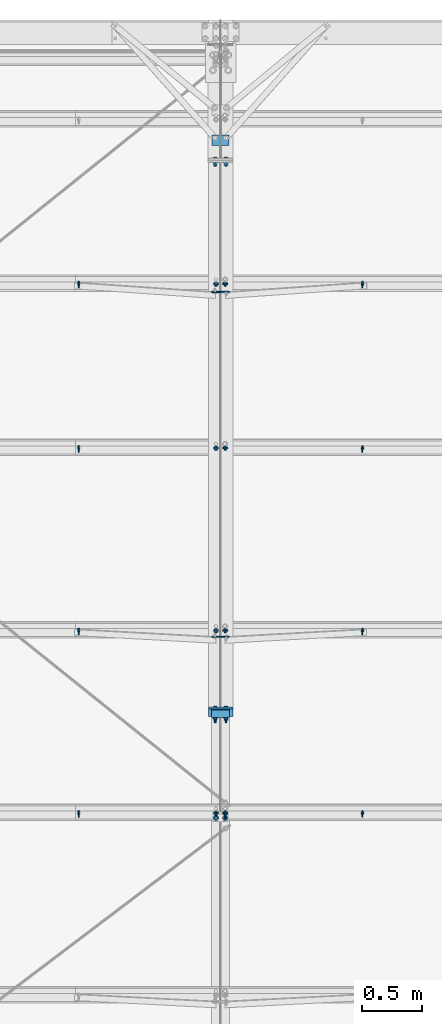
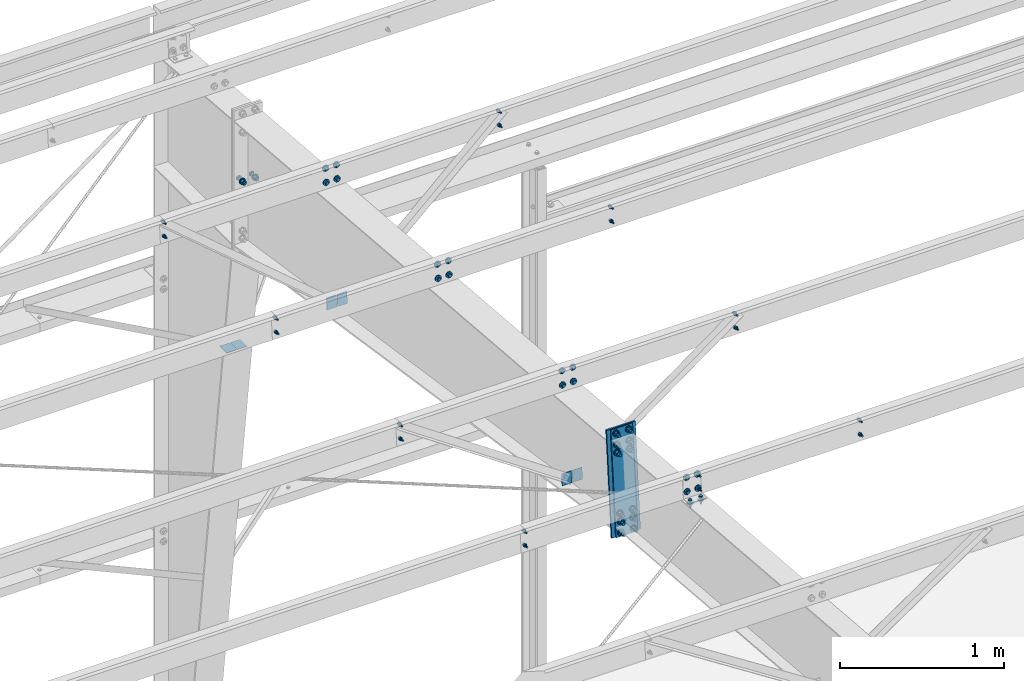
# One storey, part 113 of 185: 22 mechanical fasteners, 8 discrete accessories, 12 elements without a shape of their own.
"""IFC2X3 building model written with IfcOpenShell, lengths in millimetres."""

from ifc_helpers import new_model, si_unit, frame, origin_with_axes, origin_2d_with_axis, place, context, subcontext, project, spatial, polyline, rectangle, circle, outline, extrude, source, transform, mapped, material, type_object, element, aggregate, save


model = new_model("IFC2X3")

# Units and contexts
model_context = context("Model", 3, precision=1e-05, world=origin_with_axes())
body_context = subcontext(model_context, "Body", "Model", "MODEL_VIEW")
ifc_project = project(units=[si_unit("LENGTHUNIT", "METRE", prefix="MILLI"), si_unit("AREAUNIT", "SQUARE_METRE"), si_unit("VOLUMEUNIT", "CUBIC_METRE"), si_unit("MASSUNIT", "GRAM", prefix="KILO"), si_unit("TIMEUNIT", "SECOND"), si_unit("PLANEANGLEUNIT", "RADIAN"), si_unit("SOLIDANGLEUNIT", "STERADIAN"), si_unit("THERMODYNAMICTEMPERATUREUNIT", "DEGREE_CELSIUS"), si_unit("LUMINOUSINTENSITYUNIT", "LUMEN")], contexts=[model_context])

# Site, building, storey
site_placement = place(None, origin_with_axes())
site = spatial("IfcSite", under=ifc_project, at=site_placement, Name="Undefined", CompositionType="ELEMENT")
building_placement = place(site_placement, origin_with_axes())
building = spatial("IfcBuilding", under=site, at=building_placement, Name="Undefined", CompositionType="ELEMENT")
storey_placement = place(building_placement, origin_with_axes())
storey = spatial("IfcBuildingStorey", under=building, at=storey_placement, Name="Undefined", CompositionType="ELEMENT", Elevation=0.0)

# Assembly, mechanical fastener
assembly_1_placement = place(storey_placement, origin_with_axes())
assembly_1 = element("IfcElementAssembly", 1, at=assembly_1_placement, inside=storey, Name="Steel Assembly", AssemblyPlace="NOTDEFINED", PredefinedType="RIGID_FRAME")
ifc_material_1 = material(Name="Undefined")
discrete_accessory_type_1 = type_object("IfcDiscreteAccessoryType", Name="Bolt assembly")
shared_shape_1 = source(origin_with_axes(), body_context, "Body", "SweptSolid", [
    extrude(circle(Radius=7.14374971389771, at=origin_2d_with_axis()), frame((0.0, -1.59000001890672, 0.0), z_axis=(0.0, 1.0, 0.0), x_axis=(1.0, 0.0, 0.0)), (0.0, 0.0, 1.0), 3.3),
    extrude(circle(Radius=13.4937496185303, at=origin_2d_with_axis()), frame((0.0, -5.5587500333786, 0.0), z_axis=(0.0, 1.0, 0.0), x_axis=(1.0, 0.0, 0.0)), (0.0, 0.0, 1.0), 4.0),
    extrude(circle(Radius=22.2250003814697, at=origin_2d_with_axis()), frame((0.0, 1.5900000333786, 0.0), z_axis=(0.0, 1.0, 0.0), x_axis=(1.0, 0.0, 0.0)), (0.0, 0.0, 1.0), 7.9),
    extrude(outline(polyline([(12.8316099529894, 0.0), (6.4158049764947, 11.1125001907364), (-6.4158049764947, 11.1125001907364), (-12.8316099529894, 0.0), (-6.4158049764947, -11.1125001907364), (6.4158049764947, -11.1125001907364), (12.8316099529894, 0.0)])), frame((0.0, 9.5275000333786, 0.0), z_axis=(0.0, 1.0, 0.0), x_axis=(1.0, 0.0, 0.0)), (0.0, 0.0, 1.0), 12.3),
])
mechanical_fastener_1_placement = place(assembly_1_placement, frame((37680.9, 25413.9424255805, 6594.19538193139), z_axis=(-1.0, 0.0, 0.0), x_axis=(0.0, -0.0830454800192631, -0.996545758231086)))
mechanical_fastener_1 = element("IfcMechanicalFastener", 2, at=mechanical_fastener_1_placement, type_object=discrete_accessory_type_1, material=ifc_material_1, Name="Bolt assembly", NominalDiameter=12.6999998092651, NominalLength=38.0999984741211, context=body_context, shape_type="MappedRepresentation", body=[
    mapped(shared_shape_1, transform((0.0, 0.0, 0.0))),
    mapped(shared_shape_1, transform((101.599998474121, 0.0, 0.0))),
])
aggregate(assembly_1, [mechanical_fastener_1])

assembly_2_placement = place(storey_placement, origin_with_axes())
assembly_2 = element("IfcElementAssembly", 3, at=assembly_2_placement, inside=storey, Name="Steel Assembly", AssemblyPlace="NOTDEFINED", PredefinedType="RIGID_FRAME")
mechanical_fastener_2_placement = place(assembly_2_placement, frame((37757.1, 25413.9424256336, 6594.19538269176), z_axis=(-1.0, 0.0, 0.0), x_axis=(0.0, -0.0830454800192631, -0.996545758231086)))
mechanical_fastener_2 = element("IfcMechanicalFastener", 4, at=mechanical_fastener_2_placement, type_object=discrete_accessory_type_1, material=ifc_material_1, Name="Bolt assembly", NominalDiameter=12.6999998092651, NominalLength=38.0999984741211, context=body_context, shape_type="MappedRepresentation", body=[
    mapped(shared_shape_1, transform((0.0, 0.0, 0.0))),
    mapped(shared_shape_1, transform((101.599998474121, 0.0, 0.0))),
])

assembly_3_placement = place(storey_placement, origin_with_axes())
assembly_3 = element("IfcElementAssembly", 5, at=assembly_3_placement, inside=storey, Name="Steel Assembly", AssemblyPlace="NOTDEFINED", PredefinedType="RIGID_FRAME")
mechanical_fastener_3_placement = place(assembly_3_placement, frame((37680.9, 26932.6781611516, 6467.63407038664), z_axis=(-1.0, 0.0, 0.0), x_axis=(0.0, -0.0830454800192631, -0.996545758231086)))
mechanical_fastener_3 = element("IfcMechanicalFastener", 6, at=mechanical_fastener_3_placement, type_object=discrete_accessory_type_1, material=ifc_material_1, Name="Bolt assembly", NominalDiameter=12.6999998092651, NominalLength=38.0999984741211, context=body_context, shape_type="MappedRepresentation", body=[
    mapped(shared_shape_1, transform((0.0, 0.0, 0.0))),
    mapped(shared_shape_1, transform((101.599998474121, 0.0, 0.0))),
])
aggregate(assembly_3, [mechanical_fastener_3])

assembly_4_placement = place(storey_placement, origin_with_axes())
assembly_4 = element("IfcElementAssembly", 7, at=assembly_4_placement, inside=storey, Name="Steel Assembly", AssemblyPlace="NOTDEFINED", PredefinedType="RIGID_FRAME")
mechanical_fastener_4_placement = place(assembly_4_placement, frame((37757.1, 26932.6781611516, 6467.63407038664), z_axis=(-1.0, 0.0, 0.0), x_axis=(0.0, -0.0830454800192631, -0.996545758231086)))
mechanical_fastener_4 = element("IfcMechanicalFastener", 8, at=mechanical_fastener_4_placement, type_object=discrete_accessory_type_1, material=ifc_material_1, Name="Bolt assembly", NominalDiameter=12.6999998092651, NominalLength=38.0999984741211, context=body_context, shape_type="MappedRepresentation", body=[
    mapped(shared_shape_1, transform((0.0, 0.0, 0.0))),
    mapped(shared_shape_1, transform((101.599998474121, 0.0, 0.0))),
])

assembly_5_placement = place(storey_placement, origin_with_axes())
assembly_5 = element("IfcElementAssembly", 9, at=assembly_5_placement, inside=storey, Name="Steel Assembly", AssemblyPlace="NOTDEFINED", PredefinedType="RIGID_FRAME")
mechanical_fastener_5_placement = place(assembly_5_placement, frame((37680.9, 28451.4138966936, 6341.07275883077), z_axis=(-1.0, 0.0, 0.0), x_axis=(0.0, -0.0830454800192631, -0.996545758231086)))
mechanical_fastener_5 = element("IfcMechanicalFastener", 10, at=mechanical_fastener_5_placement, type_object=discrete_accessory_type_1, material=ifc_material_1, Name="Bolt assembly", NominalDiameter=12.6999998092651, NominalLength=38.0999984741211, context=body_context, shape_type="MappedRepresentation", body=[
    mapped(shared_shape_1, transform((0.0, 0.0, 0.0))),
    mapped(shared_shape_1, transform((101.599998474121, 0.0, 0.0))),
])
aggregate(assembly_5, [mechanical_fastener_5])

assembly_6_placement = place(storey_placement, origin_with_axes())
assembly_6 = element("IfcElementAssembly", 11, at=assembly_6_placement, inside=storey, Name="Steel Assembly", AssemblyPlace="NOTDEFINED", PredefinedType="RIGID_FRAME")
mechanical_fastener_6_placement = place(assembly_6_placement, frame((37757.1, 28451.4138966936, 6341.07275883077), z_axis=(-1.0, 0.0, 0.0), x_axis=(0.0, -0.0830454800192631, -0.996545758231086)))
mechanical_fastener_6 = element("IfcMechanicalFastener", 12, at=mechanical_fastener_6_placement, type_object=discrete_accessory_type_1, material=ifc_material_1, Name="Bolt assembly", NominalDiameter=12.6999998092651, NominalLength=38.0999984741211, context=body_context, shape_type="MappedRepresentation", body=[
    mapped(shared_shape_1, transform((0.0, 0.0, 0.0))),
    mapped(shared_shape_1, transform((101.599998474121, 0.0, 0.0))),
])

assembly_7_placement = place(storey_placement, origin_with_axes())
assembly_7 = element("IfcElementAssembly", 13, at=assembly_7_placement, inside=storey, Name="Steel Assembly", AssemblyPlace="NOTDEFINED", PredefinedType="RIGID_FRAME")
mechanical_fastener_7_placement = place(assembly_7_placement, frame((37680.9, 29818.2760586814, 6227.1675784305), z_axis=(-1.0, 0.0, 0.0), x_axis=(0.0, -0.0830454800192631, -0.996545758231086)))
mechanical_fastener_7 = element("IfcMechanicalFastener", 14, at=mechanical_fastener_7_placement, type_object=discrete_accessory_type_1, material=ifc_material_1, Name="Bolt assembly", NominalDiameter=12.6999998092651, NominalLength=38.0999984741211, context=body_context, shape_type="MappedRepresentation", body=[
    mapped(shared_shape_1, transform((0.0, 0.0, 0.0))),
    mapped(shared_shape_1, transform((101.599998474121, 0.0, 0.0))),
])
aggregate(assembly_7, [mechanical_fastener_7])

assembly_8_placement = place(storey_placement, origin_with_axes())
assembly_8 = element("IfcElementAssembly", 15, at=assembly_8_placement, inside=storey, Name="Steel Assembly", AssemblyPlace="NOTDEFINED", PredefinedType="RIGID_FRAME")
mechanical_fastener_8_placement = place(assembly_8_placement, frame((37757.1, 29818.2760586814, 6227.1675784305), z_axis=(-1.0, 0.0, 0.0), x_axis=(0.0, -0.0830454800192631, -0.996545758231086)))
mechanical_fastener_8 = element("IfcMechanicalFastener", 16, at=mechanical_fastener_8_placement, type_object=discrete_accessory_type_1, material=ifc_material_1, Name="Bolt assembly", NominalDiameter=12.6999998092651, NominalLength=38.0999984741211, context=body_context, shape_type="MappedRepresentation", body=[
    mapped(shared_shape_1, transform((0.0, 0.0, 0.0))),
    mapped(shared_shape_1, transform((101.599998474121, 0.0, 0.0))),
])

# Assembly, discrete accessories
assembly_9_placement = place(storey_placement, origin_with_axes())
assembly_9 = element("IfcElementAssembly", 17, at=assembly_9_placement, inside=storey, Name="Steel Assembly", AssemblyPlace="NOTDEFINED", PredefinedType="RIGID_FRAME")
ifc_material_2 = material(Name="STEEL/55")
discrete_accessory_type_2 = type_object("IfcDiscreteAccessoryType", Name="FLANGE BRACE FLIP")
discrete_accessory_1_placement = place(assembly_9_placement, frame((37721.38125, 31003.9296133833, 4163.892), z_axis=(0.0, 1.0, 0.0), x_axis=(1.0, 0.0, 0.0)))
discrete_accessory_1 = element("IfcDiscreteAccessory", 18, at=discrete_accessory_1_placement, type_object=discrete_accessory_type_2, material=ifc_material_2, Name="FLANGE BRACE FLIP", ObjectType="PL1/8\"X2 3/4\"", context=body_context, shape_type="SweptSolid", body=[
    extrude(rectangle(XDim=3.416, YDim=85.725, at=origin_2d_with_axis()), frame((69.8499999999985, 0.0, 0.0), z_axis=(-1.0, 0.0, 0.0), x_axis=(0.0, -1.0, 0.0)), (0.0, 0.0, 1.0), 69.8),
])
discrete_accessory_2_placement = place(assembly_9_placement, frame((37716.61875, 31003.9296133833, 4163.892), z_axis=(0.0, 1.0, 0.0), x_axis=(-1.0, 0.0, 0.0)))
discrete_accessory_2 = element("IfcDiscreteAccessory", 19, at=discrete_accessory_2_placement, type_object=discrete_accessory_type_2, material=ifc_material_2, Name="FLANGE BRACE FLIP", ObjectType="PL1/8\"X2 3/4\"", context=body_context, shape_type="SweptSolid", body=[
    extrude(rectangle(XDim=3.416, YDim=85.725, at=origin_2d_with_axis()), frame((69.8499999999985, 0.0, 0.0), z_axis=(-1.0, 0.0, 0.0), x_axis=(0.0, -1.0, 0.0)), (0.0, 0.0, 1.0), 69.8),
])

assembly_10_placement = place(storey_placement, origin_with_axes())
assembly_10 = element("IfcElementAssembly", 20, at=assembly_10_placement, inside=storey, Name="Steel Assembly", AssemblyPlace="NOTDEFINED", PredefinedType="RIGID_FRAME")
discrete_accessory_3_placement = place(assembly_10_placement, frame((37716.619, 26870.4225230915, 5699.99936980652), z_axis=(0.0, 0.0830454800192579, 0.996545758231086), x_axis=(-1.0, 0.0, 0.0)))
discrete_accessory_3 = element("IfcDiscreteAccessory", 21, at=discrete_accessory_3_placement, type_object=discrete_accessory_type_2, material=ifc_material_2, Name="FLANGE BRACE FLIP", ObjectType="PL1/8\"X2 3/4\"", context=body_context, shape_type="SweptSolid", body=[
    extrude(rectangle(XDim=3.416, YDim=85.725, at=origin_2d_with_axis()), frame((69.8499999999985, 0.0, 0.0), z_axis=(-1.0, 0.0, 0.0), x_axis=(0.0, -1.0, 0.0)), (0.0, 0.0, 1.0), 69.8),
])
discrete_accessory_4_placement = place(assembly_10_placement, frame((37721.381, 26870.4225230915, 5699.99936980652), z_axis=(0.0, 0.0830454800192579, 0.996545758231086), x_axis=(1.0, 0.0, 0.0)))
discrete_accessory_4 = element("IfcDiscreteAccessory", 22, at=discrete_accessory_4_placement, type_object=discrete_accessory_type_2, material=ifc_material_2, Name="FLANGE BRACE FLIP", ObjectType="PL1/8\"X2 3/4\"", context=body_context, shape_type="SweptSolid", body=[
    extrude(rectangle(XDim=3.416, YDim=85.725, at=origin_2d_with_axis()), frame((69.8499999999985, 0.0, 0.0), z_axis=(-1.0, 0.0, 0.0), x_axis=(0.0, -1.0, 0.0)), (0.0, 0.0, 1.0), 69.8),
])
discrete_accessory_5_placement = place(assembly_10_placement, frame((37716.619, 29740.2521226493, 5270.31330232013), z_axis=(0.0, 0.0830454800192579, 0.996545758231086), x_axis=(-1.0, 0.0, 0.0)))
discrete_accessory_5 = element("IfcDiscreteAccessory", 23, at=discrete_accessory_5_placement, type_object=discrete_accessory_type_2, material=ifc_material_2, Name="FLANGE BRACE FLIP", ObjectType="PL1/8\"X2 3/4\"", context=body_context, shape_type="SweptSolid", body=[
    extrude(rectangle(XDim=3.416, YDim=85.725, at=origin_2d_with_axis()), frame((69.8499999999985, 0.0, 0.0), z_axis=(-1.0, 0.0, 0.0), x_axis=(0.0, -1.0, 0.0)), (0.0, 0.0, 1.0), 69.9),
])
discrete_accessory_6_placement = place(assembly_10_placement, frame((37721.381, 29740.2521226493, 5270.31330232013), z_axis=(0.0, 0.0830454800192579, 0.996545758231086), x_axis=(1.0, 0.0, 0.0)))
discrete_accessory_6 = element("IfcDiscreteAccessory", 24, at=discrete_accessory_6_placement, type_object=discrete_accessory_type_2, material=ifc_material_2, Name="FLANGE BRACE FLIP", ObjectType="PL1/8\"X2 3/4\"", context=body_context, shape_type="SweptSolid", body=[
    extrude(rectangle(XDim=3.416, YDim=85.725, at=origin_2d_with_axis()), frame((69.8499999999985, 0.0, 0.0), z_axis=(-1.0, 0.0, 0.0), x_axis=(0.0, -1.0, 0.0)), (0.0, 0.0, 1.0), 69.8),
])

# Mechanical fastener
shared_shape_2 = source(origin_with_axes(), body_context, "Body", "SweptSolid", [
    extrude(circle(Radius=7.14374971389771, at=origin_2d_with_axis()), frame((0.0, -1.69000003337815, 0.0), z_axis=(0.0, 1.0, 0.0), x_axis=(1.0, 0.0, 0.0)), (0.0, 0.0, 1.0), 3.3),
    extrude(circle(Radius=7.14374971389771, at=origin_2d_with_axis()), frame((0.0, -1.4900000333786, 0.0), z_axis=(0.0, 1.0, 0.0), x_axis=(1.0, 0.0, 0.0)), (0.0, 0.0, 1.0), 3.2),
    extrude(outline(polyline([(10.9985221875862, 0.0), (5.4992610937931, 9.52499961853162), (-5.4992610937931, 9.52499961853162), (-10.9985221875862, 0.0), (-5.4992610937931, -9.52499961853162), (5.4992610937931, -9.52499961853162), (10.9985221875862, 0.0)])), frame((0.0, -11.1149996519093, 0.0), z_axis=(0.0, 1.0, 0.0), x_axis=(1.0, 0.0, 0.0)), (0.0, 0.0, 1.0), 9.5),
    extrude(circle(Radius=6.34999990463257, at=origin_2d_with_axis()), frame((0.0, -1.59000001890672, 0.0), z_axis=(0.0, 1.0, 0.0), x_axis=(1.0, 0.0, 0.0)), (0.0, 0.0, 1.0), 38.1),
    extrude(outline(polyline([(12.8316099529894, 0.0), (6.4158049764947, 11.1125001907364), (-6.4158049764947, 11.1125001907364), (-12.8316099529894, 0.0), (-6.4158049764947, -11.1125001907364), (6.4158049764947, -11.1125001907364), (12.8316099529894, 0.0)])), frame((0.0, 1.5900000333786, 0.0), z_axis=(0.0, 1.0, 0.0), x_axis=(1.0, 0.0, 0.0)), (0.0, 0.0, 1.0), 12.3),
])
mechanical_fastener_9_placement = place(assembly_2_placement, frame((36537.9, 25413.9424255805, 6594.19538193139), z_axis=(-1.0, 0.0, 0.0), x_axis=(0.0, -0.0830454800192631, -0.996545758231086)))
mechanical_fastener_9 = element("IfcMechanicalFastener", 25, at=mechanical_fastener_9_placement, type_object=discrete_accessory_type_1, material=ifc_material_1, Name="Bolt assembly", NominalDiameter=12.6999998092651, NominalLength=38.0999984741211, context=body_context, shape_type="MappedRepresentation", body=[
    mapped(shared_shape_2, transform((0.0, 0.0, 0.0))),
    mapped(shared_shape_2, transform((101.599998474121, 0.0, 0.0))),
])

mechanical_fastener_10_placement = place(assembly_2_placement, frame((38900.1, 25413.9424255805, 6594.19538193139), z_axis=(-1.0, 0.0, 0.0), x_axis=(0.0, -0.0830454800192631, -0.996545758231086)))
mechanical_fastener_10 = element("IfcMechanicalFastener", 26, at=mechanical_fastener_10_placement, type_object=discrete_accessory_type_1, material=ifc_material_1, Name="Bolt assembly", NominalDiameter=12.6999998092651, NominalLength=38.0999984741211, context=body_context, shape_type="MappedRepresentation", body=[
    mapped(shared_shape_2, transform((0.0, 0.0, 0.0))),
    mapped(shared_shape_2, transform((101.599998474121, 0.0, 0.0))),
])

aggregate(assembly_2, [mechanical_fastener_2, mechanical_fastener_9, mechanical_fastener_10])

# Assembly, mechanical fastener
assembly_11_placement = place(storey_placement, origin_with_axes())
assembly_11 = element("IfcElementAssembly", 27, at=assembly_11_placement, inside=storey, Name="Steel Assembly", AssemblyPlace="NOTDEFINED", PredefinedType="RIGID_FRAME")
shared_shape_3 = source(origin_with_axes(), body_context, "Body", "SweptSolid", [
    extrude(circle(Radius=7.14374971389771, at=origin_2d_with_axis()), frame((0.0, -4.65999985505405, 0.0), z_axis=(0.0, 1.0, 0.0), x_axis=(1.0, 0.0, 0.0)), (0.0, 0.0, 1.0), 4.8),
    extrude(circle(Radius=7.14374971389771, at=origin_2d_with_axis()), frame((0.0, -0.0238014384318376, 0.0), z_axis=(0.0, 1.0, 0.0), x_axis=(1.0, 0.0, 0.0)), (0.0, 0.0, 1.0), 8.0),
    extrude(outline(polyline([(12.8316099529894, 0.0), (6.4158049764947, 11.1125001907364), (-6.4158049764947, 11.1125001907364), (-12.8316099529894, 0.0), (-6.4158049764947, -11.1125001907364), (6.4158049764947, -11.1125001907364), (12.8316099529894, 0.0)])), frame((0.0, -12.697499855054, 0.0), z_axis=(0.0, 1.0, 0.0), x_axis=(1.0, 0.0, 0.0)), (0.0, 0.0, 1.0), 7.9),
    extrude(circle(Radius=6.34999990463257, at=origin_2d_with_axis()), frame((0.0, -4.75999985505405, 0.0), z_axis=(0.0, 1.0, 0.0), x_axis=(1.0, 0.0, 0.0)), (0.0, 0.0, 1.0), 50.8),
    extrude(circle(Radius=22.2250003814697, at=origin_2d_with_axis()), frame((0.0, 7.95019856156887, 0.0), z_axis=(0.0, 1.0, 0.0), x_axis=(1.0, 0.0, 0.0)), (0.0, 0.0, 1.0), 7.9),
    extrude(outline(polyline([(12.8316099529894, 0.0), (6.4158049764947, 11.1125001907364), (-6.4158049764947, 11.1125001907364), (-12.8316099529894, 0.0), (-6.4158049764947, -11.1125001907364), (6.4158049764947, -11.1125001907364), (12.8316099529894, 0.0)])), frame((0.0, 15.8876985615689, 0.0), z_axis=(0.0, 1.0, 0.0), x_axis=(1.0, 0.0, 0.0)), (0.0, 0.0, 1.0), 12.3),
])
mechanical_fastener_11_placement = place(assembly_11_placement, frame((37719.0, 25363.317901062, 6445.48584115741), z_axis=(1.0, 0.0, 0.0), x_axis=(0.0, -0.996545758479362, 0.0830454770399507)))
mechanical_fastener_11 = element("IfcMechanicalFastener", 28, at=mechanical_fastener_11_placement, type_object=discrete_accessory_type_1, material=ifc_material_1, Name="Bolt assembly", NominalDiameter=12.6999998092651, NominalLength=50.7999992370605, context=body_context, shape_type="MappedRepresentation", body=[
    mapped(shared_shape_3, transform((0.0, 0.0, -38.0999984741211))),
    mapped(shared_shape_3, transform((0.0, 0.0, 38.0999984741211))),
])

# Assembly, mechanical fasteners
assembly_12_placement = place(storey_placement, origin_with_axes())
assembly_12 = element("IfcElementAssembly", 29, at=assembly_12_placement, inside=storey, Name="Steel Assembly", AssemblyPlace="NOTDEFINED", PredefinedType="RIGID_FRAME")
shared_shape_4 = source(origin_with_axes(), body_context, "Body", "SweptSolid", [
    extrude(circle(Radius=7.14374971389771, at=origin_2d_with_axis()), frame((0.0, 0.0, 0.0), z_axis=(0.0, 1.0, 0.0), x_axis=(1.0, 0.0, 0.0)), (0.0, 0.0, 1.0), 4.9),
    extrude(outline(polyline([(12.8316099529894, 0.0), (6.4158049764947, 11.1125001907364), (-6.4158049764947, 11.1125001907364), (-12.8316099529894, 0.0), (-6.4158049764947, -11.1125001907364), (6.4158049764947, -11.1125001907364), (12.8316099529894, 0.0)])), frame((0.0, 4.76000382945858, 0.0), z_axis=(0.0, 1.0, 0.0), x_axis=(1.0, 0.0, 0.0)), (0.0, 0.0, 1.0), 12.3),
])
mechanical_fastener_12_placement = place(assembly_12_placement, frame((37680.9, 25413.9424255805, 6594.19538193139), z_axis=(-1.0, 0.0, 0.0), x_axis=(0.0, -0.0830454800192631, -0.996545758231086)))
mechanical_fastener_12 = element("IfcMechanicalFastener", 30, at=mechanical_fastener_12_placement, type_object=discrete_accessory_type_1, material=ifc_material_1, Name="Bolt assembly", NominalDiameter=12.6999998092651, NominalLength=50.7999992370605, context=body_context, shape_type="MappedRepresentation", body=[
    mapped(shared_shape_4, transform((0.0, 0.0, 0.0))),
    mapped(shared_shape_4, transform((101.599998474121, 0.0, 0.0))),
])
shared_shape_5 = source(origin_with_axes(), body_context, "Body", "SweptSolid", [
    extrude(circle(Radius=7.14374971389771, at=origin_2d_with_axis()), frame((0.0, 0.0, 0.0), z_axis=(0.0, 1.0, 0.0), x_axis=(1.0, 0.0, 0.0)), (0.0, 0.0, 1.0), 4.9),
    extrude(outline(polyline([(12.8316099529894, 0.0), (6.4158049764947, 11.1125001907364), (-6.4158049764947, 11.1125001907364), (-12.8316099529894, 0.0), (-6.4158049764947, -11.1125001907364), (6.4158049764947, -11.1125001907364), (12.8316099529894, 0.0)])), frame((0.0, -11.9062498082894, 0.0), z_axis=(0.0, 1.0, 0.0), x_axis=(1.0, 0.0, 0.0)), (0.0, 0.0, 1.0), 7.9),
    extrude(circle(Radius=6.34999990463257, at=origin_2d_with_axis()), frame((0.0, -3.96874999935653, 0.0), z_axis=(0.0, 1.0, 0.0), x_axis=(1.0, 0.0, 0.0)), (0.0, 0.0, 1.0), 50.8),
    extrude(circle(Radius=13.4937496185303, at=origin_2d_with_axis()), frame((0.0, -3.96874999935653, 0.0), z_axis=(0.0, 1.0, 0.0), x_axis=(1.0, 0.0, 0.0)), (0.0, 0.0, 1.0), 4.0),
    extrude(circle(Radius=22.2250003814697, at=origin_2d_with_axis()), frame((0.0, 4.76000382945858, 0.0), z_axis=(0.0, 1.0, 0.0), x_axis=(1.0, 0.0, 0.0)), (0.0, 0.0, 1.0), 7.9),
    extrude(outline(polyline([(12.8316099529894, 0.0), (6.4158049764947, 11.1125001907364), (-6.4158049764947, 11.1125001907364), (-12.8316099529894, 0.0), (-6.4158049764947, -11.1125001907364), (6.4158049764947, -11.1125001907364), (12.8316099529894, 0.0)])), frame((0.0, 12.6975038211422, 0.0), z_axis=(0.0, 1.0, 0.0), x_axis=(1.0, 0.0, 0.0)), (0.0, 0.0, 1.0), 12.3),
])
mechanical_fastener_13_placement = place(assembly_12_placement, frame((37757.1, 25413.9424256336, 6594.19538269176), z_axis=(-1.0, 0.0, 0.0), x_axis=(0.0, -0.0830454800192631, -0.996545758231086)))
mechanical_fastener_13 = element("IfcMechanicalFastener", 31, at=mechanical_fastener_13_placement, type_object=discrete_accessory_type_1, material=ifc_material_1, Name="Bolt assembly", NominalDiameter=12.6999998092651, NominalLength=50.7999992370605, context=body_context, shape_type="MappedRepresentation", body=[
    mapped(shared_shape_5, transform((0.0, 0.0, 0.0))),
    mapped(shared_shape_5, transform((101.599998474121, 0.0, 0.0))),
])
aggregate(assembly_12, [mechanical_fastener_12, mechanical_fastener_13])

# Mechanical fastener
shared_shape_6 = source(origin_with_axes(), body_context, "Body", "SweptSolid", [
    extrude(circle(Radius=7.14374971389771, at=origin_2d_with_axis()), frame((0.0, -1.4900000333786, 0.0), z_axis=(0.0, 1.0, 0.0), x_axis=(1.0, 0.0, 0.0)), (0.0, 0.0, 1.0), 3.2),
    extrude(circle(Radius=7.14374971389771, at=origin_2d_with_axis()), frame((0.0, -1.4900000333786, 0.0), z_axis=(0.0, 1.0, 0.0), x_axis=(1.0, 0.0, 0.0)), (0.0, 0.0, 1.0), 3.2),
    extrude(outline(polyline([(10.9985221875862, 0.0), (5.4992610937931, 9.52499961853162), (-5.4992610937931, 9.52499961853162), (-10.9985221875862, 0.0), (-5.4992610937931, -9.52499961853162), (5.4992610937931, -9.52499961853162), (10.9985221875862, 0.0)])), frame((0.0, -11.1149996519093, 0.0), z_axis=(0.0, 1.0, 0.0), x_axis=(1.0, 0.0, 0.0)), (0.0, 0.0, 1.0), 9.5),
    extrude(circle(Radius=6.34999990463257, at=origin_2d_with_axis()), frame((0.0, -1.59000001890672, 0.0), z_axis=(0.0, 1.0, 0.0), x_axis=(1.0, 0.0, 0.0)), (0.0, 0.0, 1.0), 38.1),
    extrude(outline(polyline([(12.8316099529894, 0.0), (6.4158049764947, 11.1125001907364), (-6.4158049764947, 11.1125001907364), (-12.8316099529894, 0.0), (-6.4158049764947, -11.1125001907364), (6.4158049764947, -11.1125001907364), (12.8316099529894, 0.0)])), frame((0.0, 1.5900000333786, 0.0), z_axis=(0.0, 1.0, 0.0), x_axis=(1.0, 0.0, 0.0)), (0.0, 0.0, 1.0), 12.3),
])
mechanical_fastener_14_placement = place(assembly_6_placement, frame((36537.9, 28451.4138966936, 6341.07275883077), z_axis=(-1.0, 0.0, 0.0), x_axis=(0.0, -0.0830454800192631, -0.996545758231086)))
mechanical_fastener_14 = element("IfcMechanicalFastener", 32, at=mechanical_fastener_14_placement, type_object=discrete_accessory_type_1, material=ifc_material_1, Name="Bolt assembly", NominalDiameter=12.6999998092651, NominalLength=38.0999984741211, context=body_context, shape_type="MappedRepresentation", body=[
    mapped(shared_shape_6, transform((0.0, 0.0, 0.0))),
    mapped(shared_shape_6, transform((101.599998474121, 0.0, 0.0))),
])

mechanical_fastener_15_placement = place(assembly_6_placement, frame((38900.1, 28451.4138966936, 6341.07275883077), z_axis=(-1.0, 0.0, 0.0), x_axis=(0.0, -0.0830454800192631, -0.996545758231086)))
mechanical_fastener_15 = element("IfcMechanicalFastener", 33, at=mechanical_fastener_15_placement, type_object=discrete_accessory_type_1, material=ifc_material_1, Name="Bolt assembly", NominalDiameter=12.6999998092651, NominalLength=38.0999984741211, context=body_context, shape_type="MappedRepresentation", body=[
    mapped(shared_shape_6, transform((0.0, 0.0, 0.0))),
    mapped(shared_shape_6, transform((101.599998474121, 0.0, 0.0))),
])

aggregate(assembly_6, [mechanical_fastener_6, mechanical_fastener_14, mechanical_fastener_15])

mechanical_fastener_16_placement = place(assembly_8_placement, frame((36537.9, 29818.2760586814, 6227.1675784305), z_axis=(-1.0, 0.0, 0.0), x_axis=(0.0, -0.0830454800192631, -0.996545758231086)))
mechanical_fastener_16 = element("IfcMechanicalFastener", 34, at=mechanical_fastener_16_placement, type_object=discrete_accessory_type_1, material=ifc_material_1, Name="Bolt assembly", NominalDiameter=12.6999998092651, NominalLength=38.0999984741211, context=body_context, shape_type="MappedRepresentation", body=[
    mapped(shared_shape_6, transform((0.0, 0.0, 0.0))),
    mapped(shared_shape_6, transform((101.599998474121, 0.0, 0.0))),
])

mechanical_fastener_17_placement = place(assembly_8_placement, frame((38900.1, 29818.2760586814, 6227.1675784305), z_axis=(-1.0, 0.0, 0.0), x_axis=(0.0, -0.0830454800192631, -0.996545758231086)))
mechanical_fastener_17 = element("IfcMechanicalFastener", 35, at=mechanical_fastener_17_placement, type_object=discrete_accessory_type_1, material=ifc_material_1, Name="Bolt assembly", NominalDiameter=12.6999998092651, NominalLength=38.0999984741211, context=body_context, shape_type="MappedRepresentation", body=[
    mapped(shared_shape_6, transform((0.0, 0.0, 0.0))),
    mapped(shared_shape_6, transform((101.599998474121, 0.0, 0.0))),
])

aggregate(assembly_8, [mechanical_fastener_8, mechanical_fastener_16, mechanical_fastener_17])

shared_shape_7 = source(origin_with_axes(), body_context, "Body", "SweptSolid", [
    extrude(circle(Radius=10.3187494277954, at=origin_2d_with_axis()), frame((0.0, -0.1, 0.0), z_axis=(0.0, 1.0, 0.0), x_axis=(1.0, 0.0, 0.0)), (0.0, 0.0, 1.0), 15.8),
    extrude(circle(Radius=10.3187494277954, at=origin_2d_with_axis()), frame((0.0, -15.775, 0.0), z_axis=(0.0, 1.0, 0.0), x_axis=(1.0, 0.0, 0.0)), (0.0, 0.0, 1.0), 15.9),
    extrude(outline(polyline([(18.3308710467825, 0.0), (9.16543552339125, 15.8750000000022), (-9.16543552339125, 15.8750000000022), (-18.3308710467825, 0.0), (-9.16543552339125, -15.8750000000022), (9.16543552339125, -15.8750000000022), (18.3308710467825, 0.0)])), frame((0.0, -27.78125, 0.0), z_axis=(0.0, 1.0, 0.0), x_axis=(1.0, 0.0, 0.0)), (0.0, 0.0, 1.0), 11.9),
    extrude(circle(Radius=9.52499961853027, at=origin_2d_with_axis()), frame((0.0, -15.8750000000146, 0.0), z_axis=(0.0, 1.0, 0.0), x_axis=(1.0, 0.0, 0.0)), (0.0, 0.0, 1.0), 69.8),
    extrude(circle(Radius=22.2250003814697, at=origin_2d_with_axis()), frame((0.0, 15.7480000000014, 0.0), z_axis=(0.0, 1.0, 0.0), x_axis=(1.0, 0.0, 0.0)), (0.0, 0.0, 1.0), 7.9),
    extrude(outline(polyline([(18.3308710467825, 0.0), (9.16543552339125, 15.8750000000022), (-9.16543552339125, 15.8750000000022), (-18.3308710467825, 0.0), (-9.16543552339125, -15.8750000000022), (9.16543552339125, -15.8750000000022), (18.3308710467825, 0.0)])), frame((0.0, 23.6855000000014, 0.0), z_axis=(0.0, 1.0, 0.0), x_axis=(1.0, 0.0, 0.0)), (0.0, 0.0, 1.0), 19.0),
])
mechanical_fastener_18_placement = place(assembly_9_placement, frame((37719.0, 30837.251, 5522.69198446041), z_axis=(-1.0, 0.0, 0.0), x_axis=(0.0, 0.0, -1.0)))
mechanical_fastener_18 = element("IfcMechanicalFastener", 36, at=mechanical_fastener_18_placement, type_object=discrete_accessory_type_1, material=ifc_material_1, Name="Bolt assembly", NominalDiameter=19.0499992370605, NominalLength=69.8499984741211, context=body_context, shape_type="MappedRepresentation", body=[
    mapped(shared_shape_7, transform((0.0, 0.0, -44.4500007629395))),
    mapped(shared_shape_7, transform((0.0, 0.0, 44.4500007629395))),
])

aggregate(assembly_9, [mechanical_fastener_18, discrete_accessory_1, discrete_accessory_2])

shared_shape_8 = source(origin_with_axes(), body_context, "Body", "SweptSolid", [
    extrude(circle(Radius=7.14374971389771, at=origin_2d_with_axis()), frame((0.0, -1.4900000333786, 0.0), z_axis=(0.0, 1.0, 0.0), x_axis=(1.0, 0.0, 0.0)), (0.0, 0.0, 1.0), 3.2),
    extrude(circle(Radius=7.14374971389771, at=origin_2d_with_axis()), frame((0.0, -1.69000003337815, 0.0), z_axis=(0.0, 1.0, 0.0), x_axis=(1.0, 0.0, 0.0)), (0.0, 0.0, 1.0), 3.3),
    extrude(outline(polyline([(10.9985221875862, 0.0), (5.4992610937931, 9.52499961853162), (-5.4992610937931, 9.52499961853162), (-10.9985221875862, 0.0), (-5.4992610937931, -9.52499961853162), (5.4992610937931, -9.52499961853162), (10.9985221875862, 0.0)])), frame((0.0, -11.1149996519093, 0.0), z_axis=(0.0, 1.0, 0.0), x_axis=(1.0, 0.0, 0.0)), (0.0, 0.0, 1.0), 9.5),
    extrude(circle(Radius=6.34999990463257, at=origin_2d_with_axis()), frame((0.0, -1.59000001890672, 0.0), z_axis=(0.0, 1.0, 0.0), x_axis=(1.0, 0.0, 0.0)), (0.0, 0.0, 1.0), 38.1),
    extrude(outline(polyline([(12.8316099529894, 0.0), (6.4158049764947, 11.1125001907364), (-6.4158049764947, 11.1125001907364), (-12.8316099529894, 0.0), (-6.4158049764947, -11.1125001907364), (6.4158049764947, -11.1125001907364), (12.8316099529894, 0.0)])), frame((0.0, 1.5900000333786, 0.0), z_axis=(0.0, 1.0, 0.0), x_axis=(1.0, 0.0, 0.0)), (0.0, 0.0, 1.0), 12.3),
])
mechanical_fastener_19_placement = place(assembly_4_placement, frame((36537.9, 26932.6781611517, 6467.63407038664), z_axis=(-1.0, 0.0, 0.0), x_axis=(0.0, -0.0830454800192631, -0.996545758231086)))
mechanical_fastener_19 = element("IfcMechanicalFastener", 37, at=mechanical_fastener_19_placement, type_object=discrete_accessory_type_1, material=ifc_material_1, Name="Bolt assembly", NominalDiameter=12.6999998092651, NominalLength=38.0999984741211, context=body_context, shape_type="MappedRepresentation", body=[
    mapped(shared_shape_8, transform((0.0, 0.0, 0.0))),
    mapped(shared_shape_8, transform((101.599998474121, 0.0, 0.0))),
])

mechanical_fastener_20_placement = place(assembly_4_placement, frame((38900.1, 26932.6781611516, 6467.63407038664), z_axis=(-1.0, 0.0, 0.0), x_axis=(0.0, -0.0830454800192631, -0.996545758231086)))
mechanical_fastener_20 = element("IfcMechanicalFastener", 38, at=mechanical_fastener_20_placement, type_object=discrete_accessory_type_1, material=ifc_material_1, Name="Bolt assembly", NominalDiameter=12.6999998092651, NominalLength=38.0999984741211, context=body_context, shape_type="MappedRepresentation", body=[
    mapped(shared_shape_8, transform((0.0, 0.0, 0.0))),
    mapped(shared_shape_8, transform((101.599998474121, 0.0, 0.0))),
])

aggregate(assembly_4, [mechanical_fastener_4, mechanical_fastener_19, mechanical_fastener_20])

# Discrete accessory
discrete_accessory_type_3 = type_object("IfcDiscreteAccessoryType", Name="Start Splice Plate")
discrete_accessory_7_placement = place(assembly_11_placement, frame((37719.0, 26267.033405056, 6441.84859146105), z_axis=(-1.0, 0.0, 0.0), x_axis=(0.0, -0.0830454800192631, -0.996545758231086)))
discrete_accessory_7 = element("IfcDiscreteAccessory", 39, at=discrete_accessory_7_placement, type_object=discrete_accessory_type_3, material=ifc_material_2, Name="Start Splice Plate", ObjectType="PL3/8\"X6\"", context=body_context, shape_type="SweptSolid", body=[
    extrude(rectangle(XDim=9.652, YDim=152.4, at=origin_2d_with_axis()), frame((768.349996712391, 0.0, 0.0), z_axis=(-1.0, 0.0, 0.0), x_axis=(0.0, -1.0, 0.0)), (0.0, 0.0, 1.0), 768.3),
])

aggregate(assembly_11, [mechanical_fastener_11, discrete_accessory_7])

discrete_accessory_type_4 = type_object("IfcDiscreteAccessoryType", Name="End Splice Plate")
discrete_accessory_8_placement = place(assembly_10_placement, frame((37719.0, 26278.1708004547, 6440.92047408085), z_axis=(-1.0, 0.0, 0.0), x_axis=(0.0, -0.0830454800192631, -0.996545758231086)))
discrete_accessory_8 = element("IfcDiscreteAccessory", 40, at=discrete_accessory_8_placement, type_object=discrete_accessory_type_4, material=ifc_material_2, Name="End Splice Plate", ObjectType="FL1/2\"X8\"", context=body_context, shape_type="SweptSolid", body=[
    extrude(rectangle(XDim=12.7, YDim=203.2, at=origin_2d_with_axis()), frame((768.349996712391, 0.0, 0.0), z_axis=(-1.0, 0.0, 0.0), x_axis=(0.0, -1.0, 0.0)), (0.0, 0.0, 1.0), 768.3),
])

# Mechanical fastener
shared_shape_9 = source(origin_with_axes(), body_context, "Body", "SweptSolid", [
    extrude(circle(Radius=10.3187494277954, at=origin_2d_with_axis()), frame((0.0, -0.1, 0.0), z_axis=(0.0, 1.0, 0.0), x_axis=(1.0, 0.0, 0.0)), (0.0, 0.0, 1.0), 9.8),
    extrude(circle(Radius=10.3187494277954, at=origin_2d_with_axis()), frame((0.0, -12.5999999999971, 0.0), z_axis=(0.0, 1.0, 0.0), x_axis=(1.0, 0.0, 0.0)), (0.0, 0.0, 1.0), 12.7),
    extrude(outline(polyline([(18.3308710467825, 0.0), (9.16543552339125, 15.8750000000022), (-9.16543552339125, 15.8750000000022), (-18.3308710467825, 0.0), (-9.16543552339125, -15.8750000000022), (9.16543552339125, -15.8750000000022), (18.3308710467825, 0.0)])), frame((0.0, -24.6062499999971, 0.0), z_axis=(0.0, 1.0, 0.0), x_axis=(1.0, 0.0, 0.0)), (0.0, 0.0, 1.0), 11.9),
    extrude(circle(Radius=9.52499961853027, at=origin_2d_with_axis()), frame((0.0, -12.6999999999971, 0.0), z_axis=(0.0, 1.0, 0.0), x_axis=(1.0, 0.0, 0.0)), (0.0, 0.0, 1.0), 69.8),
    extrude(circle(Radius=22.2250003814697, at=origin_2d_with_axis()), frame((0.0, 9.65200009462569, 0.0), z_axis=(0.0, 1.0, 0.0), x_axis=(1.0, 0.0, 0.0)), (0.0, 0.0, 1.0), 7.9),
    extrude(outline(polyline([(18.3308710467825, 0.0), (9.16543552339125, 15.8750000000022), (-9.16543552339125, 15.8750000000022), (-18.3308710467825, 0.0), (-9.16543552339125, -15.8750000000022), (9.16543552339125, -15.8750000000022), (18.3308710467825, 0.0)])), frame((0.0, 17.5895000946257, 0.0), z_axis=(0.0, 1.0, 0.0), x_axis=(1.0, 0.0, 0.0)), (0.0, 0.0, 1.0), 19.0),
])
mechanical_fastener_21_placement = place(assembly_10_placement, frame((37719.0, 26210.6714344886, 5707.39220954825), z_axis=(1.0, 0.0, 0.0), x_axis=(0.0, 0.0830454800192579, 0.996545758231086)))
mechanical_fastener_21 = element("IfcMechanicalFastener", 41, at=mechanical_fastener_21_placement, type_object=discrete_accessory_type_1, material=ifc_material_1, Name="Bolt assembly", NominalDiameter=19.0499992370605, NominalLength=69.8499984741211, context=body_context, shape_type="MappedRepresentation", body=[
    mapped(shared_shape_9, transform((0.0, 0.0, -44.4500007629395))),
    mapped(shared_shape_9, transform((79.3750000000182, 6.18456397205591e-11, -44.4500007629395))),
    mapped(shared_shape_9, transform((136.524993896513, 1.0550138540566e-10, -44.4500007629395))),
    mapped(shared_shape_9, transform((0.0, 0.0, 44.4500007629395))),
    mapped(shared_shape_9, transform((79.3750000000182, 6.18456397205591e-11, 44.4500007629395))),
    mapped(shared_shape_9, transform((136.524993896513, 1.0550138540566e-10, 44.4500007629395))),
])

mechanical_fastener_22_placement = place(assembly_10_placement, frame((37719.0, 26269.2060410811, 6409.80748723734), z_axis=(-1.0, 0.0, 0.0), x_axis=(0.0, -0.0830454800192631, -0.996545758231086)))
mechanical_fastener_22 = element("IfcMechanicalFastener", 42, at=mechanical_fastener_22_placement, type_object=discrete_accessory_type_1, material=ifc_material_1, Name="Bolt assembly", NominalDiameter=19.0499992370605, NominalLength=69.8499984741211, context=body_context, shape_type="MappedRepresentation", body=[
    mapped(shared_shape_9, transform((0.0, 0.0, -44.4500007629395))),
    mapped(shared_shape_9, transform((79.3750000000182, 6.18456397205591e-11, -44.4500007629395))),
    mapped(shared_shape_9, transform((136.524993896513, 1.0550138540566e-10, -44.4500007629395))),
    mapped(shared_shape_9, transform((0.0, 0.0, 44.4500007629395))),
    mapped(shared_shape_9, transform((79.3750000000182, 6.18456397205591e-11, 44.4500007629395))),
    mapped(shared_shape_9, transform((136.524993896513, 1.0550138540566e-10, 44.4500007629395))),
])

aggregate(assembly_10, [discrete_accessory_3, discrete_accessory_4, discrete_accessory_5, discrete_accessory_6, mechanical_fastener_21, mechanical_fastener_22, discrete_accessory_8])

save(model, "model.ifc")
